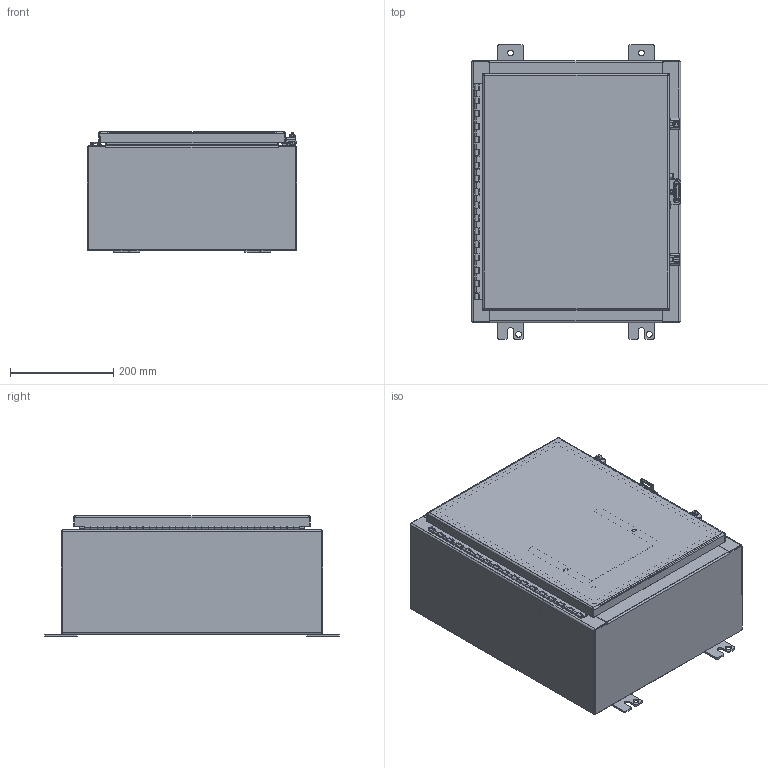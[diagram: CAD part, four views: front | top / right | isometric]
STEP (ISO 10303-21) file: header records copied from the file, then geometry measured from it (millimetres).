
FILE_DESCRIPTION((''),'2;1');
FILE_NAME('MODEL-303_ASM','2021-04-26T14:44:56',('Tony.Gonzales'),('SAGINAW CONTROL & ENGINEERING'),'CREO PARAMETRIC BY PTC INC, 2017260','CREO PARAMETRIC BY PTC INC, 2017260','');
FILE_SCHEMA(('AUTOMOTIVE_DESIGN { 1 0 10303 214 1 1 1 1 }'));
Length unit declared in the file: inch
Products named in the file (29): MODEL-303-BDY; MODEL-303-TP; MODEL-303-BTM; MODEL-303-DR; 100837; 100882; 111541; 118915_DR; 118915_PIN; 118915_BX; 118915_STUD; 118915_ASM; 100897; MODEL-303-DOOR-GASKET; 128600; 102483; MODEL-303-DOOR-ASSY_ASM; 102211; 101651; 121452; 120131_BASE; 120131_CLAMP; 120131_SCREW; 120131_CLOSED_ASM; 120134; SUBPANEL; 100904; SUBPANEL-SUBASSEMBLY_ASM; MODEL-303_ASM
Assembly tree (49 placements, depth 4):
  MODEL-303_ASM
    MODEL-303-BDY
    MODEL-303-TP
    MODEL-303-BTM
    MODEL-303-DOOR-ASSY_ASM
      MODEL-303-DR
      100837  x3
      100882  x2
      111541
      118915_ASM
        118915_DR
        118915_PIN
        118915_BX
        118915_STUD  x3
      100897  x3
      MODEL-303-DOOR-GASKET
      128600
      102483
    102211  x4
    100837
    101651  x4
    121452
    120131_CLOSED_ASM  x2
      120131_BASE
      120131_CLAMP
      120131_SCREW
    100882  x3
    120134
    SUBPANEL-SUBASSEMBLY_ASM
      SUBPANEL
      100904  x4
Bounding box: 406.4 x 571.5 x 233.88 mm (x, y, z)
Volume: 2424556.5 mm3; surface area: 2269626.4 mm2
Topology: 46 solids, 46 shells, 3246 faces, 8426 edges, 5306 vertices
Faces by surface type: plane 1269, bspline 917, cylinder 697, torus 200, sphere 85, cone 78
Entity records: 88777 total; most frequent: CARTESIAN_POINT 29415, ORIENTED_EDGE 8470, DIRECTION 7523, PRESENTATION_STYLE_ASSIGNMENT 4363, STYLED_ITEM 4363, CURVE_STYLE 4235, EDGE_CURVE 4235, VERTEX_POINT 2664
